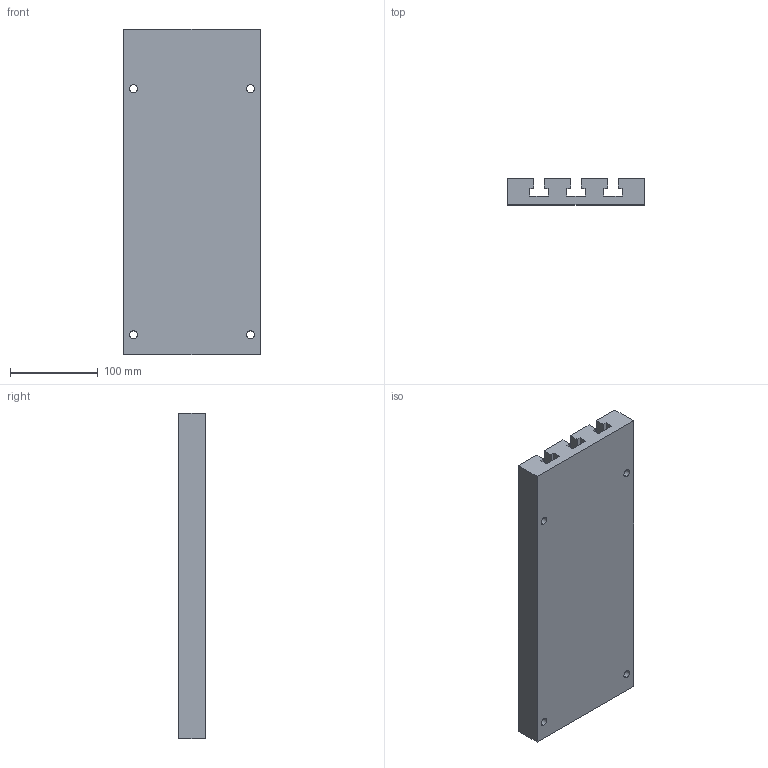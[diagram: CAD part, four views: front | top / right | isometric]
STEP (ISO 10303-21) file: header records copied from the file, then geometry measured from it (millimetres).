
FILE_DESCRIPTION (( 'STEP AP214' ), '1' );
FILE_NAME ('SHORT GANG PLATE.STEP', '2013-12-20T15:31:45', ( '' ), ( '' ), 'SwSTEP 2.0', 'SolidWorks 2012', '' );
FILE_SCHEMA (( 'AUTOMOTIVE_DESIGN' ));
Length unit declared in the file: millimetre
Products named in the file (1): SHORT GANG PLATE
Bounding box: 155 x 30 x 370 mm (x, y, z)
Volume: 1352484.4 mm3; surface area: 212216.6 mm2
Topology: 1 solids, 1 shells, 50 faces, 132 edges, 88 vertices
Faces by surface type: plane 34, cylinder 16
Entity records: 1653 total; most frequent: CARTESIAN_POINT 271, DIRECTION 266, ORIENTED_EDGE 264, EDGE_CURVE 132, LINE 100, VECTOR 100, VERTEX_POINT 88, AXIS2_PLACEMENT_3D 83
